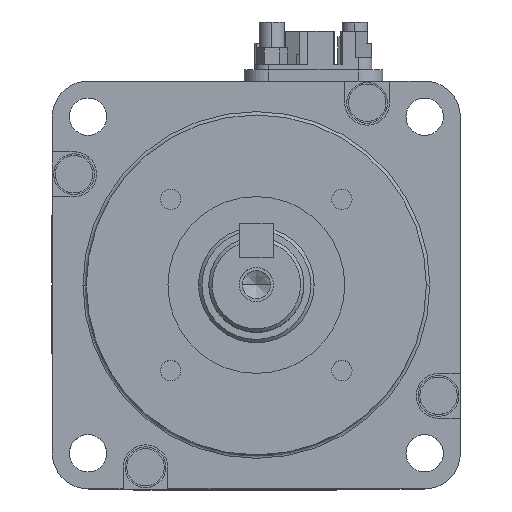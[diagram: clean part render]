
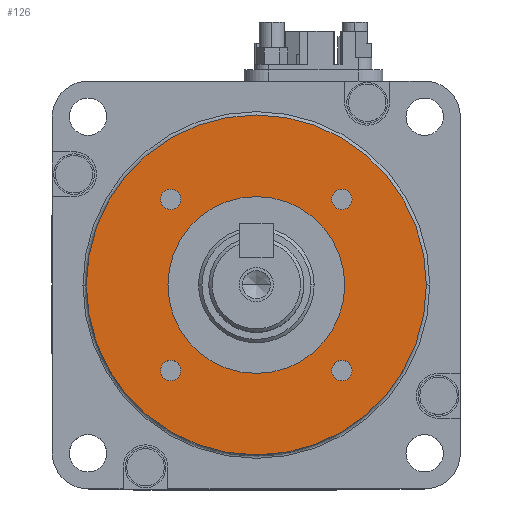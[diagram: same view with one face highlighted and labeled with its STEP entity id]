
A CAD part, top view. The second image highlights one B-rep face of the part: STEP entity #126.
In plain terms, the highlighted planar face has unit normal (0, 0, 1).
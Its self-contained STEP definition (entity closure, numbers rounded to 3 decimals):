
#126=ADVANCED_FACE('',(#700,#701,#702,#703,#704,#705),#699,.T.);
#699=PLANE('',#5159);
#700=FACE_OUTER_BOUND('',#5160,.T.);
#701=FACE_BOUND('',#5161,.T.);
#702=FACE_BOUND('',#5162,.T.);
#703=FACE_BOUND('',#5163,.T.);
#704=FACE_BOUND('',#5164,.T.);
#705=FACE_BOUND('',#5165,.T.);
#5156=CARTESIAN_POINT('',(-57.5,-51.962,3.));
#5157=DIRECTION('',(0.,0.,1.));
#5158=DIRECTION('',(1.,0.,0.));
#5159=AXIS2_PLACEMENT_3D('',#5156,#5157,#5158);
#5160=EDGE_LOOP('',(#7500,#7501));
#5161=EDGE_LOOP('',(#7502,#7503));
#5162=EDGE_LOOP('',(#7504,#7505));
#5163=EDGE_LOOP('',(#7506,#7507));
#5164=EDGE_LOOP('',(#7508,#7509));
#5165=EDGE_LOOP('',(#7510,#7511));
#7500=ORIENTED_EDGE('',*,*,#9829,.T.);
#7501=ORIENTED_EDGE('',*,*,#9830,.T.);
#7502=ORIENTED_EDGE('',*,*,#9831,.F.);
#7503=ORIENTED_EDGE('',*,*,#9832,.F.);
#7504=ORIENTED_EDGE('',*,*,#9833,.F.);
#7505=ORIENTED_EDGE('',*,*,#9834,.F.);
#7506=ORIENTED_EDGE('',*,*,#9835,.F.);
#7507=ORIENTED_EDGE('',*,*,#9836,.F.);
#7508=ORIENTED_EDGE('',*,*,#9837,.F.);
#7509=ORIENTED_EDGE('',*,*,#9838,.F.);
#7510=ORIENTED_EDGE('',*,*,#9839,.F.);
#7511=ORIENTED_EDGE('',*,*,#9840,.F.);
#9829=EDGE_CURVE('',#11230,#11231,#11232,.T.);
#9830=EDGE_CURVE('',#11231,#11230,#11238,.T.);
#9831=EDGE_CURVE('',#11244,#11245,#11246,.T.);
#9832=EDGE_CURVE('',#11245,#11244,#11252,.T.);
#9833=EDGE_CURVE('',#11258,#11259,#11260,.T.);
#9834=EDGE_CURVE('',#11259,#11258,#11266,.T.);
#9835=EDGE_CURVE('',#11272,#11273,#11274,.T.);
#9836=EDGE_CURVE('',#11273,#11272,#11280,.T.);
#9837=EDGE_CURVE('',#11286,#11287,#11288,.T.);
#9838=EDGE_CURVE('',#11287,#11286,#11294,.T.);
#9839=EDGE_CURVE('',#11300,#11301,#11302,.T.);
#9840=EDGE_CURVE('',#11301,#11300,#11308,.T.);
#11230=VERTEX_POINT('',#18994);
#11231=VERTEX_POINT('',#18995);
#11232=CIRCLE('',#18999,25.);
#11238=CIRCLE('',#19003,25.);
#11244=VERTEX_POINT('',#19004);
#11245=VERTEX_POINT('',#19005);
#11246=CIRCLE('',#19009,1.5);
#11252=CIRCLE('',#19013,1.5);
#11258=VERTEX_POINT('',#19014);
#11259=VERTEX_POINT('',#19015);
#11260=CIRCLE('',#19019,1.5);
#11266=CIRCLE('',#19023,1.5);
#11272=VERTEX_POINT('',#19024);
#11273=VERTEX_POINT('',#19025);
#11274=CIRCLE('',#19029,1.5);
#11280=CIRCLE('',#19033,1.5);
#11286=VERTEX_POINT('',#19034);
#11287=VERTEX_POINT('',#19035);
#11288=CIRCLE('',#19039,1.5);
#11294=CIRCLE('',#19043,1.5);
#11300=VERTEX_POINT('',#19044);
#11301=VERTEX_POINT('',#19045);
#11302=CIRCLE('',#19049,13.);
#11308=CIRCLE('',#19053,13.);
#18994=CARTESIAN_POINT('',(25.,0.,3.));
#18995=CARTESIAN_POINT('',(-25.,0.,3.));
#18996=CARTESIAN_POINT('',(0.,0.,3.));
#18997=DIRECTION('',(0.,0.,1.));
#18998=DIRECTION('',(1.,0.,0.));
#18999=AXIS2_PLACEMENT_3D('',#18996,#18997,#18998);
#19000=CARTESIAN_POINT('',(0.,0.,3.));
#19001=DIRECTION('',(0.,0.,1.));
#19002=DIRECTION('',(1.,0.,0.));
#19003=AXIS2_PLACEMENT_3D('',#19000,#19001,#19002);
#19004=CARTESIAN_POINT('',(14.087,-12.587,3.));
#19005=CARTESIAN_POINT('',(11.087,-12.587,3.));
#19006=CARTESIAN_POINT('',(12.587,-12.587,3.));
#19007=DIRECTION('',(0.,0.,1.));
#19008=DIRECTION('',(-1.,0.,0.));
#19009=AXIS2_PLACEMENT_3D('',#19006,#19007,#19008);
#19010=CARTESIAN_POINT('',(12.587,-12.587,3.));
#19011=DIRECTION('',(0.,0.,1.));
#19012=DIRECTION('',(-1.,0.,0.));
#19013=AXIS2_PLACEMENT_3D('',#19010,#19011,#19012);
#19014=CARTESIAN_POINT('',(-11.087,-12.587,3.));
#19015=CARTESIAN_POINT('',(-14.087,-12.587,3.));
#19016=CARTESIAN_POINT('',(-12.587,-12.587,3.));
#19017=DIRECTION('',(0.,0.,1.));
#19018=DIRECTION('',(-1.,0.,0.));
#19019=AXIS2_PLACEMENT_3D('',#19016,#19017,#19018);
#19020=CARTESIAN_POINT('',(-12.587,-12.587,3.));
#19021=DIRECTION('',(0.,0.,1.));
#19022=DIRECTION('',(-1.,0.,0.));
#19023=AXIS2_PLACEMENT_3D('',#19020,#19021,#19022);
#19024=CARTESIAN_POINT('',(-11.087,12.587,3.));
#19025=CARTESIAN_POINT('',(-14.087,12.587,3.));
#19026=CARTESIAN_POINT('',(-12.587,12.587,3.));
#19027=DIRECTION('',(0.,0.,1.));
#19028=DIRECTION('',(-1.,0.,0.));
#19029=AXIS2_PLACEMENT_3D('',#19026,#19027,#19028);
#19030=CARTESIAN_POINT('',(-12.587,12.587,3.));
#19031=DIRECTION('',(0.,0.,1.));
#19032=DIRECTION('',(-1.,0.,0.));
#19033=AXIS2_PLACEMENT_3D('',#19030,#19031,#19032);
#19034=CARTESIAN_POINT('',(14.087,12.587,3.));
#19035=CARTESIAN_POINT('',(11.087,12.587,3.));
#19036=CARTESIAN_POINT('',(12.587,12.587,3.));
#19037=DIRECTION('',(0.,0.,1.));
#19038=DIRECTION('',(-1.,0.,0.));
#19039=AXIS2_PLACEMENT_3D('',#19036,#19037,#19038);
#19040=CARTESIAN_POINT('',(12.587,12.587,3.));
#19041=DIRECTION('',(0.,0.,1.));
#19042=DIRECTION('',(-1.,0.,0.));
#19043=AXIS2_PLACEMENT_3D('',#19040,#19041,#19042);
#19044=CARTESIAN_POINT('',(13.,0.,3.));
#19045=CARTESIAN_POINT('',(-13.,0.,3.));
#19046=CARTESIAN_POINT('',(0.,0.,3.));
#19047=DIRECTION('',(0.,0.,1.));
#19048=DIRECTION('',(-1.,0.,0.));
#19049=AXIS2_PLACEMENT_3D('',#19046,#19047,#19048);
#19050=CARTESIAN_POINT('',(0.,0.,3.));
#19051=DIRECTION('',(0.,0.,1.));
#19052=DIRECTION('',(-1.,0.,0.));
#19053=AXIS2_PLACEMENT_3D('',#19050,#19051,#19052);
